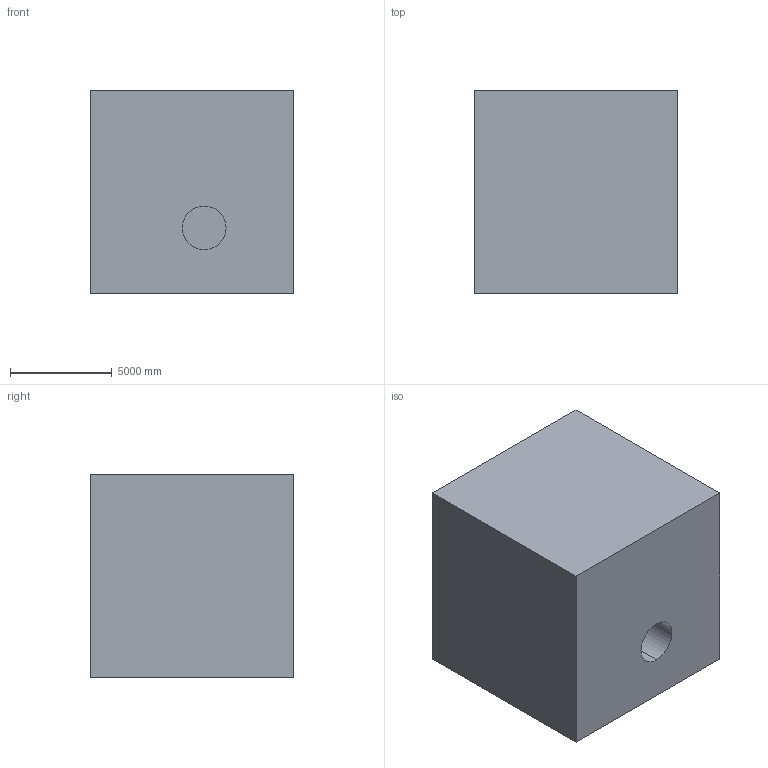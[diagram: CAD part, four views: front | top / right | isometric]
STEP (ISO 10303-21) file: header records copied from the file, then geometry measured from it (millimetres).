
FILE_DESCRIPTION (( 'STEP AP203' ), '1' );
FILE_NAME ('1127.STEP', '2022-08-18T12:52:04', ( 'user' ), ( '' ), 'SwSTEP 2.0', 'SolidWorks 2021', '' );
FILE_SCHEMA (( 'CONFIG_CONTROL_DESIGN' ));
Length unit declared in the file: centimetre
Products named in the file (1): 1127
Bounding box: 10000 x 10000 x 10000 mm (x, y, z)
Volume: 960789161588.3 mm3; surface area: 676231971 mm2
Topology: 1 solids, 1 shells, 15 faces, 30 edges, 20 vertices
Faces by surface type: plane 9, cylinder 6
Entity records: 473 total; most frequent: DIRECTION 74, CARTESIAN_POINT 66, ORIENTED_EDGE 60, EDGE_CURVE 30, AXIS2_PLACEMENT_3D 28, VERTEX_POINT 20, LINE 18, EDGE_LOOP 18
